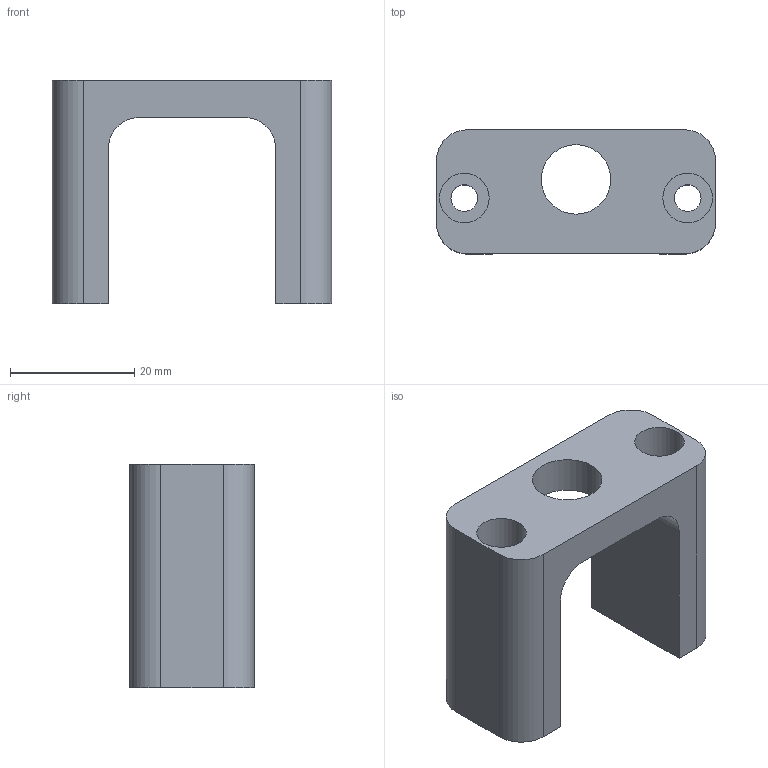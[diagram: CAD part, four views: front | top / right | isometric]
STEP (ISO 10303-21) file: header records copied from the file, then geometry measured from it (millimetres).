
FILE_DESCRIPTION(/* description */ ('Flange tube coupling'),/* implementation_level */ '2;1');
FILE_NAME(/* name */ 'Z:\Werkstatt Server\Projekte\Atlas\Entwicklung u. Konstruktion\Konstruktion\CAD Daten\ITkPixToolV2.0\Baremodule Jig\ITPTv2.01.00.22.stp',/* time_stamp */ '2021-08-06T14:57:01+02:00',/* author */ ('Tim Kanngießer'),/* organization */ (''),/* preprocessor_version */ 'ST-DEVELOPER v18.1',/* originating_system */ 'Autodesk Inventor 2022',/* authorisation */ '');
FILE_SCHEMA (('AUTOMOTIVE_DESIGN { 1 0 10303 214 3 1 1 }'));
Length unit declared in the file: millimetre
Products named in the file (1): ITPTv2.01.00.22
Bounding box: 45 x 20 x 36 mm (x, y, z)
Volume: 13540.7 mm3; surface area: 6723.4 mm2
Topology: 1 solids, 1 shells, 23 faces, 57 edges, 38 vertices
Faces by surface type: plane 12, cylinder 11
Full cylindrical faces by diameter (mm): 4.3 x2, 8 x2, 11.2 x1
Entity records: 746 total; most frequent: DIRECTION 127, CARTESIAN_POINT 119, ORIENTED_EDGE 114, EDGE_CURVE 57, AXIS2_PLACEMENT_3D 46, VERTEX_POINT 38, LINE 35, VECTOR 35
